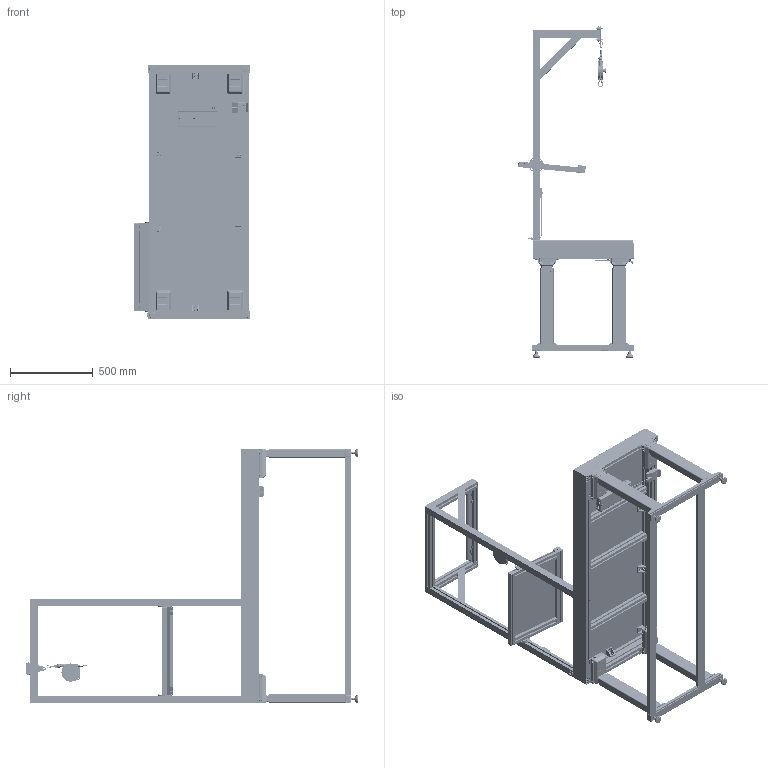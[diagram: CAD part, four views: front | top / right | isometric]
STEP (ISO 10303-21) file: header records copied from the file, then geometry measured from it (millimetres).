
FILE_DESCRIPTION(/* description */ (''),/* implementation_level */ '2;1');
FILE_NAME(/* name */ 'AM020926-1.stp',/* time_stamp */ '2026-04-21T13:15:43-04:00',/* author */ ('amoles'),/* organization */ (''),/* preprocessor_version */ 'ST-DEVELOPER v20.1',/* originating_system */ 'Autodesk Inventor 2026',/* authorisation */ '');
FILE_SCHEMA (('AUTOMOTIVE_DESIGN { 1 0 10303 214 3 1 1 }'));
Products named in the file (81): AM020926-1; 27.8100 DL6 WITH SPECIAL MOUNTING HARDWARE; 27.8100 DL6 WITH MOUNTING HARDWARE SPECIAL MOUNTING HARDWARE 2; 27.8100 DL6 WITH MOUNTING HARDWARE SPECIAL MOUNTING HARDWARE 3; DL6NC_BIFMA_OP6; DL6NC_MP6; DL6_BIFMA_INNER; AM102925-1-11; 27.8100/2; 21.9984; 21.1506 ; 21.1238  ; AM102925-1-5; bottom depth assy 45x32; AM020926-1-2; 22.1003/1 ; 22.1003_1 END CAP 45X32 GRAY; 21.1871 LEVELING FOOT M8 45mm BASE; ANTI-SKID 45mm PAD; PAD 45mm PLASTIC; THREADED STUD 8mm; 21.1526 M8 HEX NUT; 45x32 f; 27.8130_1 DPG HEIGHT ADJ SWITCH; 21.1571; AM020926-1-6; AM020926-1-7; 45x45 2g back post; left vert; 45x90 2g width hori front; AM020926-1-1; 45x45 2g width hori; 45x32 f top; 45x45 2gg; SP060314 51.5 X 18; SP060314 45X32 DEPTH HORI; SP060314 32X32; 21.9370 ; 21.9370 _1; 21.9370/1 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
Assembly tree (163 placements, depth 4):
  AM020926-1
    27.8100 DL6 WITH SPECIAL MOUNTING HARDWARE
      DL6NC_BIFMA_OP6
      DL6NC_MP6
      DL6_BIFMA_INNER
      21.1238    x3
      AM102925-1-5
      AM102925-1-11
      27.8100/2
    27.8100 DL6 WITH MOUNTING HARDWARE SPECIAL MOUNTING HARDWARE 2  x2
      DL6NC_BIFMA_OP6
      DL6NC_MP6
      DL6_BIFMA_INNER
      AM102925-1-11
      21.9984
      21.1351/2
      27.8100/2
      21.1238  
      AM102925-1-5
    27.8100 DL6 WITH MOUNTING HARDWARE SPECIAL MOUNTING HARDWARE 3
      DL6NC_BIFMA_OP6
      DL6NC_MP6
      DL6_BIFMA_INNER
      AM102925-1-11
      21.9984  x5
      21.1351/2  x5
      27.8100/2
      21.1238    x3
      AM102925-1-5
    bottom depth assy 45x32  x2
      AM020926-1-2
      22.1003/1 
        22.1003_1 END CAP 45X32 GRAY
        22.1017_1 END CAP DOWEL
      21.1871 LEVELING FOOT M8 45mm BASE
        ANTI-SKID 45mm PAD
        PAD 45mm PLASTIC
        THREADED STUD 8mm
        21.1526 M8 HEX NUT
    45x32 f  x2
    27.8130_1 DPG HEIGHT ADJ SWITCH
    21.1571
    AM020926-1-6
    AM020926-1-7
    45x45 2g back post
    left vert
    45x90 2g width hori front
    AM020926-1-1
    45x45 2g width hori
    45 2g upper depth hori  x2
    45x32 f top
    45x45 2gg
    SP060314 51.5 X 18
      SP060314 45X32 DEPTH HORI  x2
      SP060314 32X32
      21.9370 
        21.9370/1 
        21.2016
        21.9965  x2
        21.1330/2  x2
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Bounding box: 699.94 x 2007.29 x 1541.77 mm (x, y, z)
Volume: 54071293.7 mm3; surface area: 14730195.6 mm2
Topology: 272 solids, 284 shells, 16014 faces, 43137 edges, 28181 vertices
Faces by surface type: plane 9475, cylinder 4645, cone 706, bspline 598, torus 465, sphere 125
Full cylindrical faces by diameter (mm): 0.34 x1, 0.41 x1, 1.5 x4, 1.918 x2, 3.242 x2, 3.5 x1, 4 x5, 4.6 x10, 4.701 x68, 4.8 x2, 5 x64, 5.3 x48, 5.5 x22, 6 x121, 6.1 x2, 6.376 x169, 6.5 x6, 6.53 x1, 6.604 x18, 6.647 x14, 7 x14, 7.3 x2, 7.65 x12, 7.9 x8, 8 x286, 8.3 x4, 8.4 x22, 8.5 x13, 8.65 x6, 9.077 x2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
Entity records: 255938 total; most frequent: CARTESIAN_POINT 73021, ORIENTED_EDGE 37648, DIRECTION 35609, EDGE_CURVE 18824, LINE 13181, VECTOR 13181, VERTEX_POINT 12185, AXIS2_PLACEMENT_3D 11214
